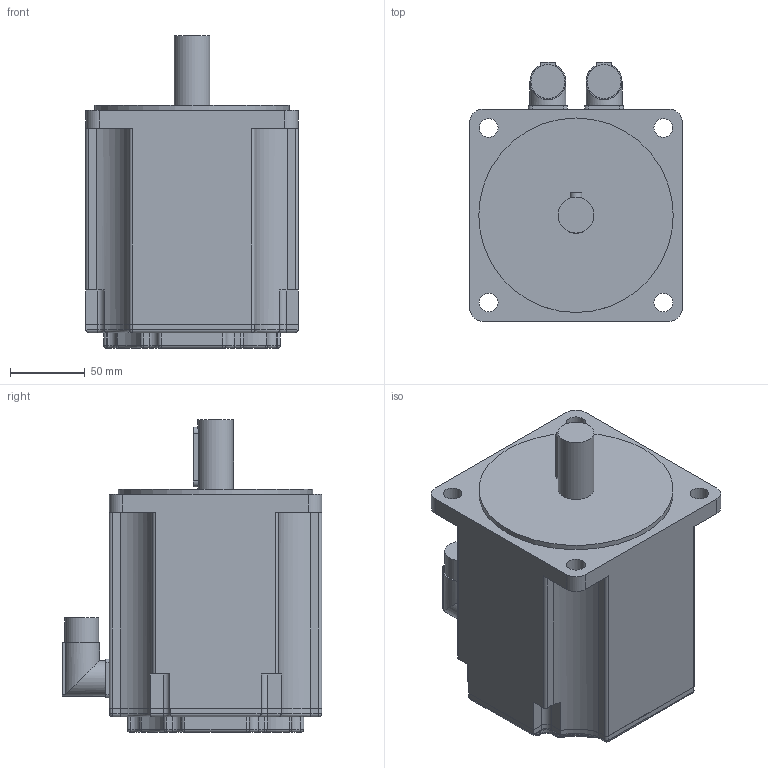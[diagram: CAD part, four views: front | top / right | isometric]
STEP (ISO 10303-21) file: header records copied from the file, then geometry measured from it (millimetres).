
FILE_DESCRIPTION(/* description */ (''),/* implementation_level */ '2;1');
FILE_NAME(/* name */ '\\Lafnas01\disegni\Archivi Lafert\3D\CAD 3D\MODELLI\Assiemi clienti\Serad\Modelli 3D Serad\B71Q\Encoder\Enc Without Brake\B7104Qxx6ARx2033.ipt.stp',/* time_stamp */ '2015-09-07T10:52:24+02:00',/* author */ ('Pastrello Ylenia'),/* organization */ (''),/* preprocessor_version */ 'ST-DEVELOPER v15.6',/* originating_system */ 'Autodesk Inventor 2015',/* authorisation */ '');
FILE_SCHEMA (('AUTOMOTIVE_DESIGN { 1 0 10303 214 3 1 1 }'));
Length unit declared in the file: millimetre
Products named in the file (1): B7104Qxx6ARx2033
Bounding box: 142 x 173.5 x 209 mm (x, y, z)
Volume: 2830227.6 mm3; surface area: 136197.4 mm2
Topology: 1 solids, 1 shells, 251 faces, 624 edges, 386 vertices
Faces by surface type: cylinder 118, plane 93, torus 20, sphere 20
Full cylindrical faces by diameter (mm): 12.5 x4, 22.7 x2, 24 x3, 130 x1
Entity records: 7508 total; most frequent: CARTESIAN_POINT 1382, DIRECTION 1362, ORIENTED_EDGE 1220, EDGE_CURVE 610, AXIS2_PLACEMENT_3D 510, VERTEX_POINT 382, LINE 342, VECTOR 342
